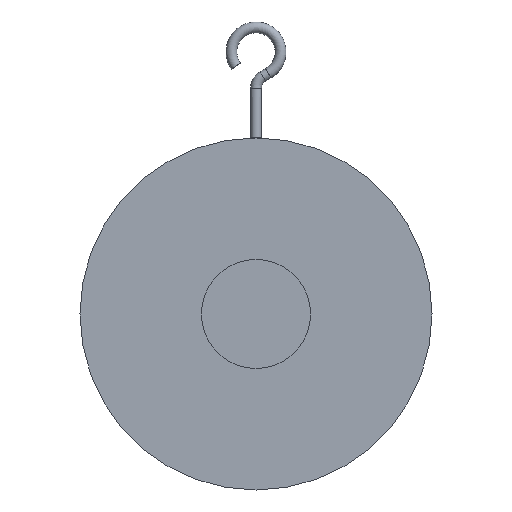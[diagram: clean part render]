
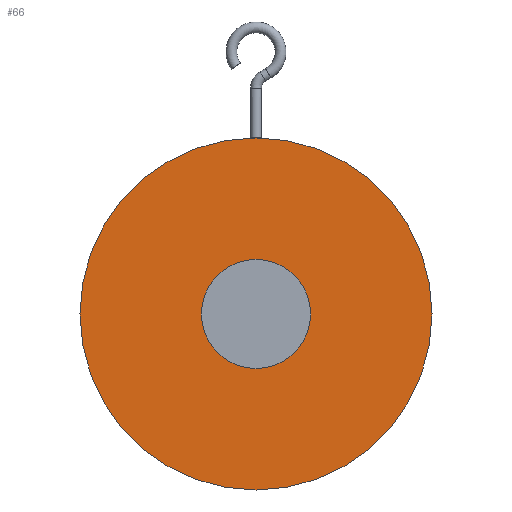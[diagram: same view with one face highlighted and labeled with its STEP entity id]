
A CAD part, front view. The second image highlights one B-rep face of the part: STEP entity #66.
In plain terms, the highlighted planar face has unit normal (0, -1, 0).
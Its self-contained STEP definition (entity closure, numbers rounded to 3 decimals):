
#66=ADVANCED_FACE('',(#203,#205),#207,.T.);
#203=FACE_BOUND('',#204,.T.);
#204=EDGE_LOOP('',(#315));
#205=FACE_BOUND('',#206,.T.);
#206=EDGE_LOOP('',(#316));
#207=PLANE('',#208);
#208=AXIS2_PLACEMENT_3D('',#209,#210,#211);
#209=CARTESIAN_POINT('',(0.,-8.,0.));
#210=DIRECTION('',(0.,-1.,0.));
#211=DIRECTION('',(0.,0.,1.));
#315=ORIENTED_EDGE('',*,*,#356,.F.);
#316=ORIENTED_EDGE('',*,*,#358,.T.);
#356=EDGE_CURVE('',#383,#383,#384,.T.);
#358=EDGE_CURVE('',#387,#387,#388,.T.);
#383=VERTEX_POINT('',#581);
#384=CIRCLE('',#582,64.5);
#387=VERTEX_POINT('',#591);
#388=CIRCLE('',#592,20.);
#581=CARTESIAN_POINT('',(0.,-8.,64.5));
#582=AXIS2_PLACEMENT_3D('',#583,#584,#585);
#583=CARTESIAN_POINT('',(0.,-8.,0.));
#584=DIRECTION('',(0.,1.,0.));
#585=DIRECTION('',(0.,0.,1.));
#591=CARTESIAN_POINT('',(0.,-8.,20.));
#592=AXIS2_PLACEMENT_3D('',#593,#594,#595);
#593=CARTESIAN_POINT('',(0.,-8.,0.));
#594=DIRECTION('',(0.,1.,0.));
#595=DIRECTION('',(0.,0.,1.));
